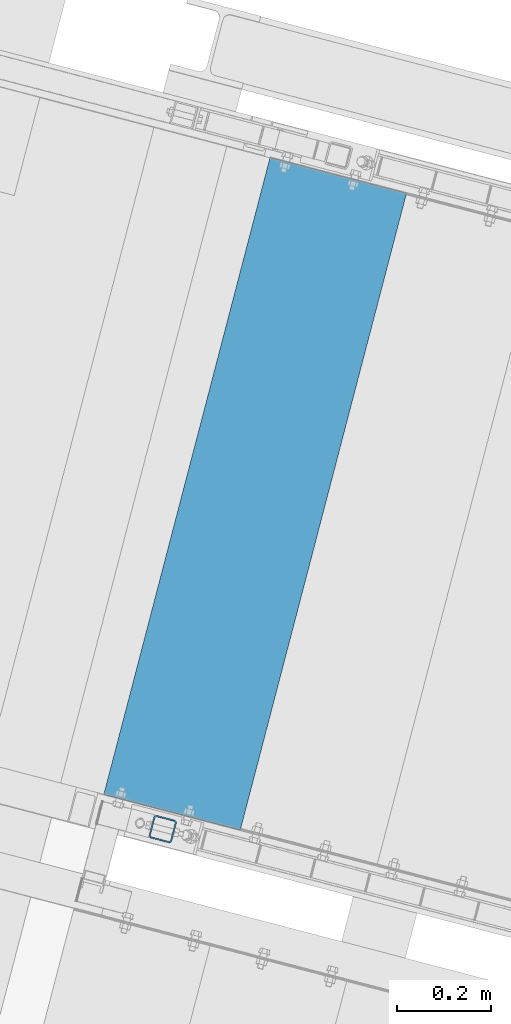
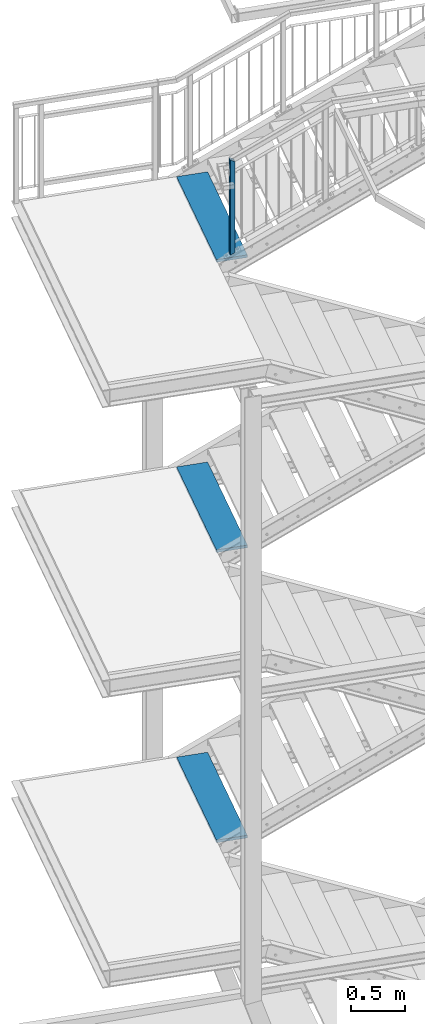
# One storey, part 39 of 169: 4 discrete accessories, 4 elements without a shape of their own.
"""IFC2X3 building model written with IfcOpenShell, lengths in millimetres."""

from ifc_helpers import new_model, si_unit, frame, origin_with_axes, origin_2d_with_axis, place, context, subcontext, project, spatial, polyline, hollow_rectangle, outline, extrude, clip, halfspace, material, type_object, element, aggregate, save


model = new_model("IFC2X3")

# Units and contexts
model_context = context("Model", 3, precision=1e-05, world=origin_with_axes())
body_context = subcontext(model_context, "Body", "Model", "MODEL_VIEW")
ifc_project = project(units=[si_unit("LENGTHUNIT", "METRE", prefix="MILLI"), si_unit("AREAUNIT", "SQUARE_METRE"), si_unit("VOLUMEUNIT", "CUBIC_METRE"), si_unit("MASSUNIT", "GRAM", prefix="KILO"), si_unit("TIMEUNIT", "SECOND"), si_unit("PLANEANGLEUNIT", "RADIAN"), si_unit("SOLIDANGLEUNIT", "STERADIAN"), si_unit("THERMODYNAMICTEMPERATUREUNIT", "DEGREE_CELSIUS"), si_unit("LUMINOUSINTENSITYUNIT", "LUMEN")], contexts=[model_context])

# Site, building, storey
site_placement = place(None, origin_with_axes())
site = spatial("IfcSite", under=ifc_project, at=site_placement, Name="Undefined", CompositionType="ELEMENT")
building_placement = place(site_placement, origin_with_axes())
building = spatial("IfcBuilding", under=site, at=building_placement, Name="Undefined", CompositionType="ELEMENT")
storey_placement = place(building_placement, origin_with_axes())
storey = spatial("IfcBuildingStorey", under=building, at=storey_placement, Name="Undefined", CompositionType="ELEMENT", Elevation=0.0)

# Assembly, discrete accessory
assembly_1_placement = place(storey_placement, origin_with_axes())
assembly_1 = element("IfcElementAssembly", 1, at=assembly_1_placement, inside=storey, Name="Steel Assembly", AssemblyPlace="NOTDEFINED", PredefinedType="RIGID_FRAME")
ifc_material_1 = material(Name="STEEL/S235")
discrete_accessory_type_1 = type_object("IfcDiscreteAccessoryType", Name="STANCHION")
discrete_accessory_1_placement = place(assembly_1_placement, frame((-27794.1252375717, 7335.8484556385, 12450.1970444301), z_axis=(3.4552000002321e-05, 0.000132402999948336, 0.999999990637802), x_axis=(0.252628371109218, 0.967563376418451, -0.000136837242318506)))
discrete_accessory_1 = element("IfcDiscreteAccessory", 2, at=discrete_accessory_1_placement, type_object=discrete_accessory_type_1, material=ifc_material_1, Name="STANCHION", ObjectType="SHS50*3", context=body_context, shape_type="Clipping", body=[
    clip(clip(extrude(hollow_rectangle(XDim=50.0, YDim=50.0, WallThickness=3.0, InnerFilletRadius=3.0, OuterFilletRadius=6.0, at=origin_2d_with_axis()), frame((9.9475983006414e-13, 3.63798341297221e-12, 1100.24496513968), z_axis=(-2.54700353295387e-10, 0.0, -1.0), x_axis=(0.0, 1.0, 0.0)), (0.0, 0.0, 1.0), 1114.08), halfspace(frame((5.02640432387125e-07, 25.000000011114, 1087.45084973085), z_axis=(-5.00827677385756e-10, 0.525731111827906, -0.850650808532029), x_axis=(-1.0, -3.46944695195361e-18, -1.38777878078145e-17)), True)), halfspace(frame((999.999067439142, 2.68328154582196, 13.2372719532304), z_axis=(-0.00015298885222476, 0.447213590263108, 0.894427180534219), x_axis=(-7.64941891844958e-05, -0.894427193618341, 0.447213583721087)), True)),
])
aggregate(assembly_1, [discrete_accessory_1])

assembly_2_placement = place(storey_placement, origin_with_axes())
assembly_2 = element("IfcElementAssembly", 3, at=assembly_2_placement, inside=storey, Name="Steel Assembly", AssemblyPlace="NOTDEFINED", PredefinedType="RIGID_FRAME")
ifc_material_2 = material(Name="STEEL/S235JR")
discrete_accessory_type_2 = type_object("IfcDiscreteAccessoryType", Name="STOPNIE")
discrete_accessory_2_placement = place(assembly_2_placement, frame((-27774.2979549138, 7372.01326366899, 12365.0957859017), z_axis=(-2.54700353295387e-10, 0.0, -1.0), x_axis=(0.252562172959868, 0.967580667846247, 0.0)))
discrete_accessory_2 = element("IfcDiscreteAccessory", 4, at=discrete_accessory_2_placement, type_object=discrete_accessory_type_2, material=ifc_material_2, Name="STOPNIE", ObjectType="PL30*300", context=body_context, shape_type="SweptSolid", body=[
    extrude(outline(polyline([(3.45607986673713e-11, -150.00000000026), (-3.09228198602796e-11, 150.000000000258), (1400.00000144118, 150.000000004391), (1400.0000014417, -149.999999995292), (3.45607986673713e-11, -150.00000000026)])), frame((1.81898940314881e-12, 3.72231275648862e-23, -15.0000000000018), z_axis=(0.0, 0.0, 1.0), x_axis=(1.0, 0.0, 0.0)), (0.0, 0.0, 1.0), 30.0),
])
aggregate(assembly_2, [discrete_accessory_2])

assembly_3_placement = place(storey_placement, origin_with_axes())
assembly_3 = element("IfcElementAssembly", 5, at=assembly_3_placement, inside=storey, Name="Steel Assembly", AssemblyPlace="NOTDEFINED", PredefinedType="RIGID_FRAME")
discrete_accessory_3_placement = place(assembly_3_placement, frame((-27774.4120322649, 7371.57634872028, 9065.09581681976), z_axis=(-2.54700353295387e-10, 0.0, -1.0), x_axis=(0.252562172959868, 0.967580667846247, 0.0)))
discrete_accessory_3 = element("IfcDiscreteAccessory", 6, at=discrete_accessory_3_placement, type_object=discrete_accessory_type_2, material=ifc_material_2, Name="STOPNIE", ObjectType="PL30*300", context=body_context, shape_type="SweptSolid", body=[
    extrude(outline(polyline([(3.45607986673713e-11, -150.00000000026), (-3.09228198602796e-11, 150.000000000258), (1400.00000144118, 150.000000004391), (1400.0000014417, -149.999999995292), (3.45607986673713e-11, -150.00000000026)])), frame((1.81898940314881e-12, 3.72231275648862e-23, -15.0000000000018), z_axis=(0.0, 0.0, 1.0), x_axis=(1.0, 0.0, 0.0)), (0.0, 0.0, 1.0), 30.0),
])
aggregate(assembly_3, [discrete_accessory_3])

assembly_4_placement = place(storey_placement, origin_with_axes())
assembly_4 = element("IfcElementAssembly", 7, at=assembly_4_placement, inside=storey, Name="Steel Assembly", AssemblyPlace="NOTDEFINED", PredefinedType="RIGID_FRAME")
discrete_accessory_4_placement = place(assembly_4_placement, frame((-27774.5261097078, 7371.1394337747, 5765.09584768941), z_axis=(-2.54700353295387e-10, 0.0, -1.0), x_axis=(0.252562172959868, 0.967580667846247, 0.0)))
discrete_accessory_4 = element("IfcDiscreteAccessory", 8, at=discrete_accessory_4_placement, type_object=discrete_accessory_type_2, material=ifc_material_2, Name="STOPNIE", ObjectType="PL30*300", context=body_context, shape_type="SweptSolid", body=[
    extrude(outline(polyline([(3.45607986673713e-11, -150.00000000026), (-3.09228198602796e-11, 150.000000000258), (1400.00000144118, 150.000000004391), (1400.0000014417, -149.999999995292), (3.45607986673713e-11, -150.00000000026)])), frame((1.81898940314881e-12, 3.72231275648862e-23, -15.0000000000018), z_axis=(0.0, 0.0, 1.0), x_axis=(1.0, 0.0, 0.0)), (0.0, 0.0, 1.0), 30.0),
])
aggregate(assembly_4, [discrete_accessory_4])

save(model, "model.ifc")
